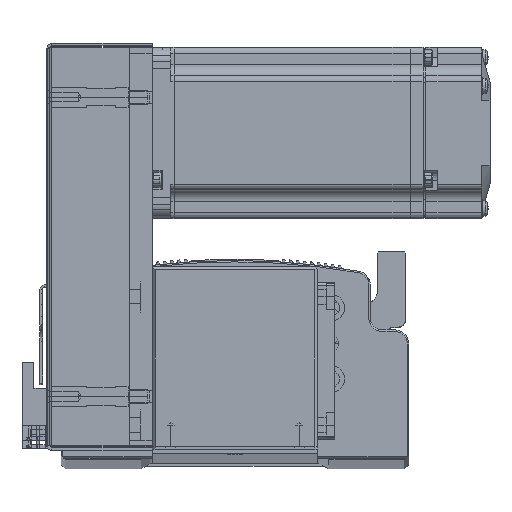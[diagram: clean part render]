
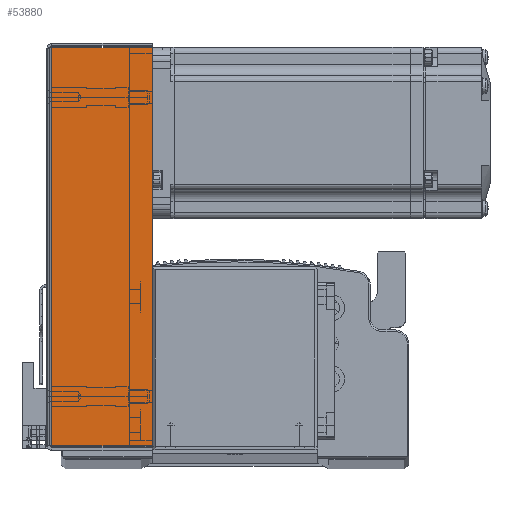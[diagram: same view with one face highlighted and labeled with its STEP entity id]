
A CAD part, top view. The second image highlights one B-rep face of the part: STEP entity #53880.
In plain terms, the highlighted planar face has unit normal (0, 0, 1) as drawn and (0, 0, -1) by its records, which use the part's own axes.
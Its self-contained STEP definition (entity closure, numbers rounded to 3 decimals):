
#8035 = FACE_OUTER_BOUND ( 'NONE', #86191, .T. ) ;
#26412 = PLANE ( 'NONE',  #28434 ) ;
#26427 = CARTESIAN_POINT ( 'NONE',  ( 0., 0., -33.5 ) ) ;
#26435 = DIRECTION ( 'NONE',  ( 0., -1., 0. ) ) ;
#26459 = DIRECTION ( 'NONE',  ( 0., 0., 1. ) ) ;
#28434 = AXIS2_PLACEMENT_3D ( 'NONE', #26427, #26459, #26435 ) ;
#41164 = DIRECTION ( 'NONE',  ( 0., 1., 0. ) ) ;
#41191 = CARTESIAN_POINT ( 'NONE',  ( 69.793, 0., -33.5 ) ) ;
#41239 = DIRECTION ( 'NONE',  ( 1., 0., 0. ) ) ;
#41253 = CARTESIAN_POINT ( 'NONE',  ( 71.5, 0.737, -33.5 ) ) ;
#41376 = DIRECTION ( 'NONE',  ( 1., 0., 0. ) ) ;
#41389 = CARTESIAN_POINT ( 'NONE',  ( 0., 36., -33.5 ) ) ;
#53880 = ADVANCED_FACE ( 'NONE', ( #8035 ), #26412, .F. ) ;
#63859 = EDGE_CURVE ( 'NONE', #71006, #70968, #83358, .T. ) ;
#63880 = EDGE_CURVE ( 'NONE', #70948, #71006, #83377, .T. ) ;
#63897 = EDGE_CURVE ( 'NONE', #70979, #70968, #83455, .T. ) ;
#63959 = EDGE_CURVE ( 'NONE', #70948, #70979, #83527, .T. ) ;
#70948 = VERTEX_POINT ( 'NONE', #83801 ) ;
#70968 = VERTEX_POINT ( 'NONE', #83952 ) ;
#70979 = VERTEX_POINT ( 'NONE', #83972 ) ;
#71006 = VERTEX_POINT ( 'NONE', #83963 ) ;
#82127 = CARTESIAN_POINT ( 'NONE',  ( -69.793, 0., -33.5 ) ) ;
#82219 = DIRECTION ( 'NONE',  ( 0., 1., 0. ) ) ;
#83349 = VECTOR ( 'NONE', #41376, 1000. ) ;
#83358 = LINE ( 'NONE', #41191, #83399 ) ;
#83377 = LINE ( 'NONE', #41253, #83401 ) ;
#83399 = VECTOR ( 'NONE', #41164, 1000. ) ;
#83401 = VECTOR ( 'NONE', #41239, 1000. ) ;
#83455 = LINE ( 'NONE', #41389, #83349 ) ;
#83527 = LINE ( 'NONE', #82127, #83590 ) ;
#83590 = VECTOR ( 'NONE', #82219, 1000. ) ;
#83801 = CARTESIAN_POINT ( 'NONE',  ( -69.793, 0.737, -33.5 ) ) ;
#83952 = CARTESIAN_POINT ( 'NONE',  ( 69.793, 36., -33.5 ) ) ;
#83963 = CARTESIAN_POINT ( 'NONE',  ( 69.793, 0.737, -33.5 ) ) ;
#83972 = CARTESIAN_POINT ( 'NONE',  ( -69.793, 36., -33.5 ) ) ;
#86191 = EDGE_LOOP ( 'NONE', ( #87415, #87428, #87437, #87449 ) ) ;
#87415 = ORIENTED_EDGE ( 'NONE', *, *, #63880, .F. ) ;
#87428 = ORIENTED_EDGE ( 'NONE', *, *, #63959, .T. ) ;
#87437 = ORIENTED_EDGE ( 'NONE', *, *, #63897, .T. ) ;
#87449 = ORIENTED_EDGE ( 'NONE', *, *, #63859, .F. ) ;
